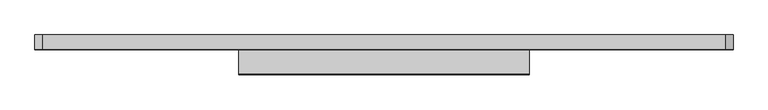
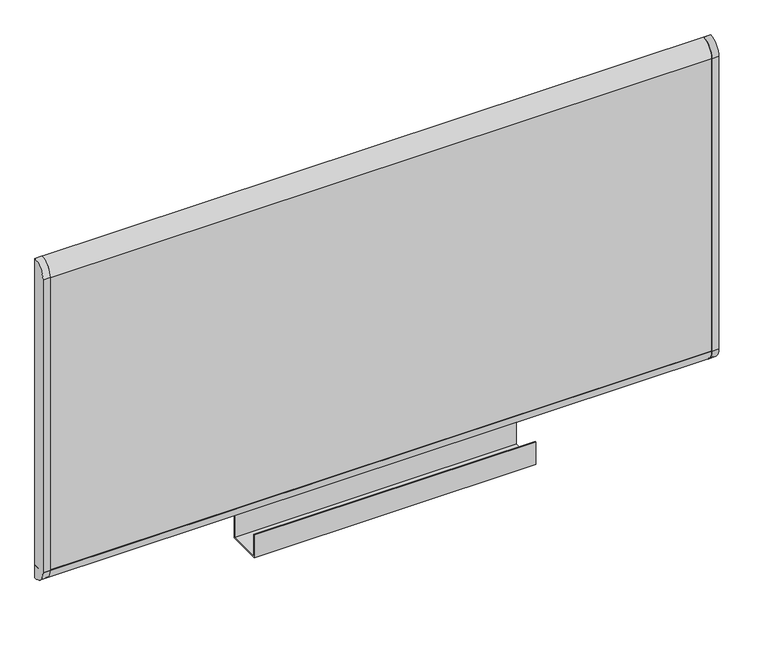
"""IFC4 building model written with IfcOpenShell, lengths in millimetres: furniture geometry."""

from ifc_helpers import new_model, si_unit, point, frame, frame_2d, origin, place, context, project, spatial, polyline, circle_curve, trimmed, segment, composite_curve, outline, extrude, source, transform, mapped, element, save


def furniture_ee16526f(model_context):
    return source(origin(), model_context, "Body", "SweptSolid", [
        extrude(outline(composite_curve([segment(trimmed(circle_curve(frame_2d((12.7, 1346.2)), 25.4), [point((-12.7, 1346.2))], [point((12.7, 1371.6))], False, "CARTESIAN"), True, "CONTINUOUS"), segment(polyline([(12.7, 1371.6), (12.7, 762.0)]), True, "CONTINUOUS"), segment(trimmed(circle_curve(frame_2d((12.7, 787.4)), 25.4), [point((12.7, 762.0))], [point((-12.7, 787.4))], False, "CARTESIAN"), True, "CONTINUOUS"), segment(polyline([(-12.7, 787.4), (-12.7, 1346.2)]), True, "CONTINUOUS")], self_intersect=False)), frame((596.9, 0.0, 0.0), z_axis=(1.0, 0.0, 0.0), x_axis=(0.0, 1.0, 0.0)), (0.0, 0.0, 1.0), 12.7),
        extrude(outline(composite_curve([segment(trimmed(circle_curve(frame_2d((12.7, 1346.2)), 25.4), [point((-12.7, 1346.2))], [point((12.7, 1371.6))], False, "CARTESIAN"), True, "CONTINUOUS"), segment(polyline([(12.7, 1371.6), (12.7, 762.0)]), True, "CONTINUOUS"), segment(trimmed(circle_curve(frame_2d((12.7, 787.4)), 25.4), [point((12.7, 762.0))], [point((-12.7, 787.4))], False, "CARTESIAN"), True, "CONTINUOUS"), segment(polyline([(-12.7, 787.4), (-12.7, 1346.2)]), True, "CONTINUOUS")], self_intersect=False)), frame((-609.6, 0.0, 0.0), z_axis=(1.0, 0.0, 0.0), x_axis=(0.0, 1.0, 0.0)), (0.0, 0.0, 1.0), 12.6991989),
        extrude(outline(composite_curve([segment(polyline([(-12.7, 787.4), (12.7, 787.4), (12.7, 762.0)]), True, "CONTINUOUS"), segment(trimmed(circle_curve(frame_2d((12.7, 787.4)), 25.4), [point((12.7, 762.0))], [point((-12.7, 787.4))], False, "CARTESIAN"), True, "CONTINUOUS")], self_intersect=False)), frame((-609.6, 0.0, 0.0), z_axis=(1.0, 0.0, 0.0), x_axis=(0.0, 1.0, 0.0)), (0.0, 0.0, 1.0), 1219.2),
        extrude(outline(composite_curve([segment(trimmed(circle_curve(frame_2d((12.7, 1346.2)), 25.4), [point((-12.7, 1346.2))], [point((12.7, 1371.6))], False, "CARTESIAN"), True, "CONTINUOUS"), segment(polyline([(12.7, 1371.6), (12.7, 1346.2), (-12.7, 1346.2)]), True, "CONTINUOUS")], self_intersect=False)), frame((-609.6, 0.0, 0.0), z_axis=(1.0, 0.0, 0.0), x_axis=(0.0, 1.0, 0.0)), (0.0, 0.0, 1.0), 1219.2),
        extrude(outline(composite_curve([segment(trimmed(circle_curve(frame_2d((12.7132292, 787.4)), 24.6194792), [point((11.90625, 762.79375))], [point((-11.90625, 787.4))], False, "CARTESIAN"), True, "CONTINUOUS"), segment(polyline([(-11.90625, 787.4), (-11.90625, 1346.2)]), True, "CONTINUOUS"), segment(trimmed(circle_curve(frame_2d((11.90625, 1346.9809476)), 23.8253024), [point((-11.90625, 1346.2))], [point((11.90625, 1370.80625))], False, "CARTESIAN"), True, "CONTINUOUS"), segment(polyline([(11.90625, 1370.80625), (11.90625, 762.79375)]), True, "CONTINUOUS")], self_intersect=False)), frame((-596.9008011, 0.0, 0.0), z_axis=(1.0, 0.0, 0.0), x_axis=(0.0, 1.0, 0.0)), (0.0, 0.0, 1.0), 1193.8008011),
        extrude(outline(polyline([(4.7624998, 762.0), (6.3499998, 762.0), (6.3499998, 718.2929779), (-57.1500015, 718.2929779), (-57.1500015, 762.0), (-55.5625015, 762.0), (-55.5625015, 719.8804779), (4.7624998, 719.8804779), (4.7624998, 762.0)])), frame((-254.0508084, 0.0, 0.0), z_axis=(1.0, 0.0, 0.0), x_axis=(0.0, 1.0, 0.0)), (0.0, 0.0, 1.0), 507.9999879),
    ])


if __name__ == "__main__":
    model = new_model("IFC4")
    model_context = context("Model", 3, world=origin())
    ifc_project = project(units=[si_unit("LENGTHUNIT", "METRE", prefix="MILLI")], contexts=[model_context])
    site = spatial("IfcSite", under=ifc_project)
    building = spatial("IfcBuilding", under=site)
    placement = place(None, origin())
    furniture_shape = furniture_ee16526f(model_context)
    element("IfcFurniture", 1, ObjectType="HermanMiller_ActionOffice_A3510_B-StyleMarkerBoard : 24\"H x 48\"W", at=placement, inside=building, context=model_context, shape_type="MappedRepresentation", body=[
        mapped(furniture_shape, transform((0.0, 0.0, 0.0), x_axis=(1.0, 0.0, 0.0), y_axis=(0.0, 1.0, 0.0), z_axis=(0.0, 0.0, 1.0))),
    ])
    save(model, "model.ifc")
